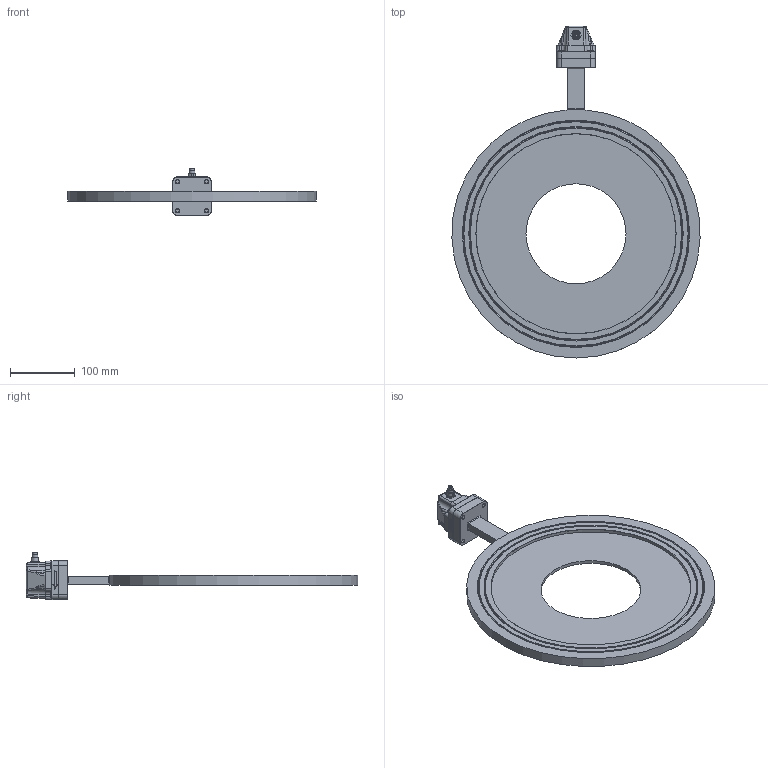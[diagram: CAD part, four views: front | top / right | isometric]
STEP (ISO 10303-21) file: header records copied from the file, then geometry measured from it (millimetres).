
FILE_DESCRIPTION(/* description */ ('Alibre Inc.'),/* implementation_level */ '2;1');
FILE_NAME(/* name */ 'export0',/* time_stamp */ '2012-11-14T14:34:46+01:00',/* author */ (''),/* organization */ (''),/* preprocessor_version */ 'ST-DEVELOPER v14',/* originating_system */ 'Alibre',/* authorisation */ '');
FILE_SCHEMA (('CONFIG_CONTROL_DESIGN'));
Length unit declared in the file: centimetre
Products named in the file (6): ID_1; ID_2; ID_3; ID_4
Bounding box: 384.75 x 514.5 x 73.94 mm (x, y, z)
Volume: 1016858.5 mm3; surface area: 277424.2 mm2
Topology: 8 solids, 8 shells, 653 faces, 1436 edges, 843 vertices
Faces by surface type: plane 210, cylinder 177, bspline 117, cone 94, sphere 31, torus 24
Full cylindrical faces by diameter (mm): 0.75 x5, 3.198 x4, 6 x16, 6.2 x1, 6.4 x4, 6.7 x1, 8.9 x1, 9.6 x4, 10 x4, 11 x4, 17.2 x2, 21.1 x2, 155 x1, 310 x2
Entity records: 38995 total; most frequent: CARTESIAN_POINT 26885, ORIENTED_EDGE 2344, DIRECTION 2185, EDGE_CURVE 1172, AXIS2_PLACEMENT_3D 971, VERTEX_POINT 730, EDGE_LOOP 714, FACE_BOUND 714
